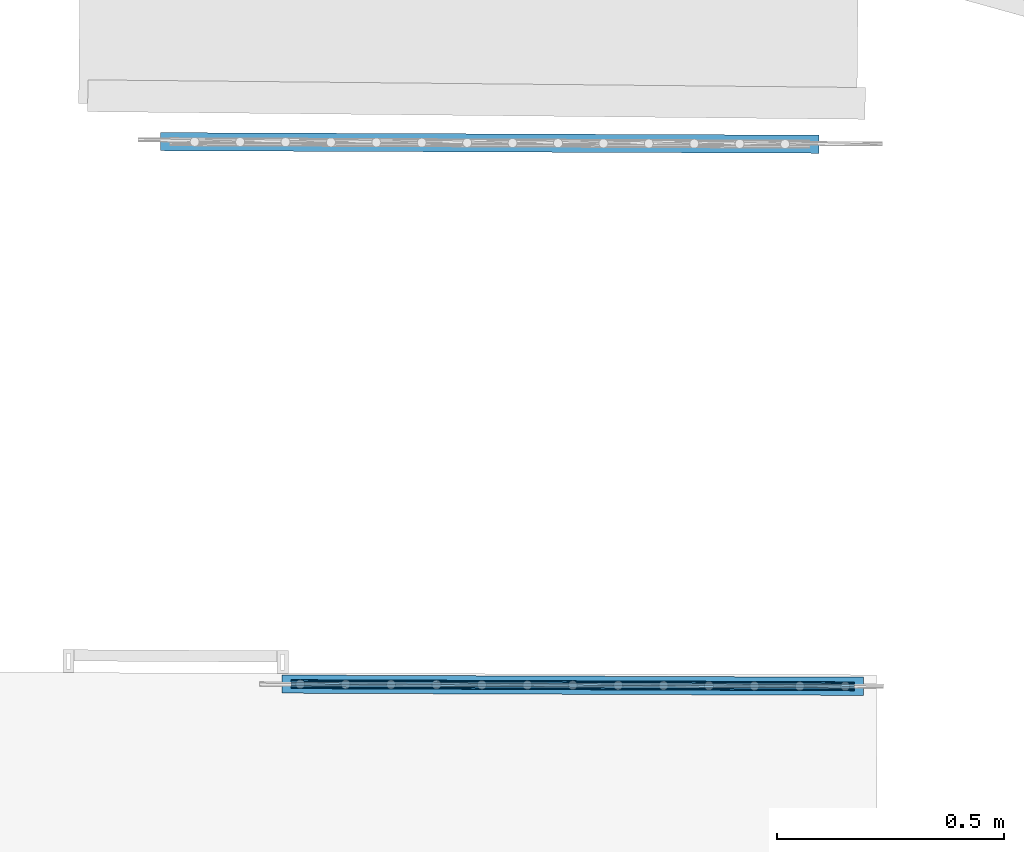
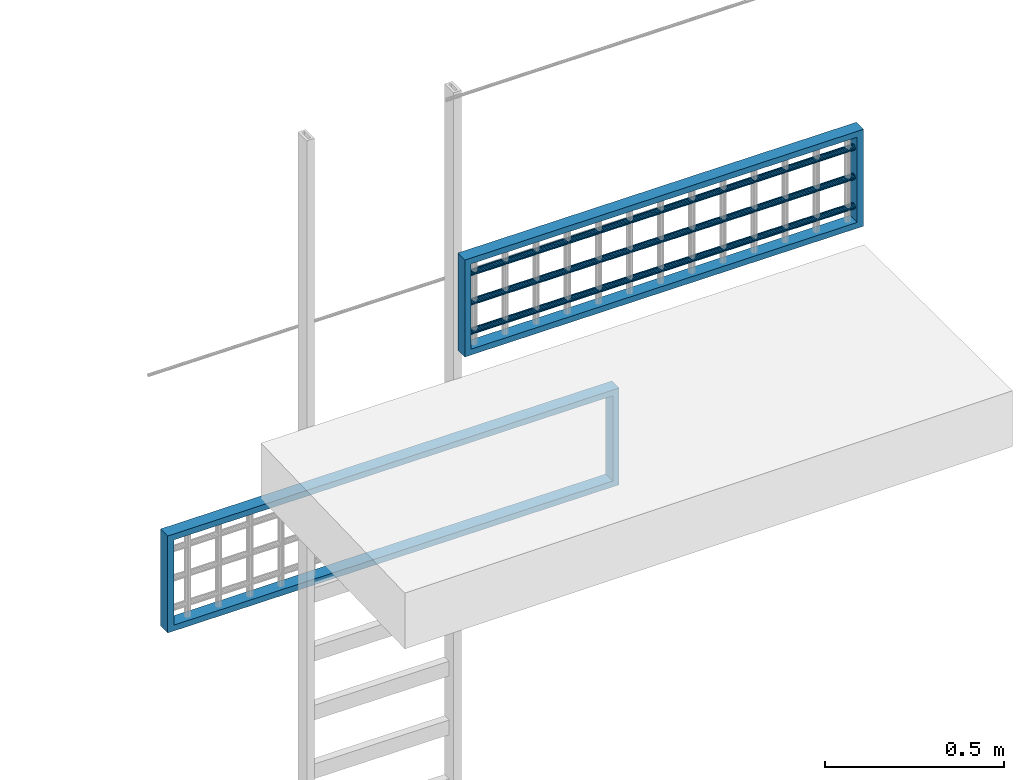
# One storey, part 13 of 39: 5 members, 2 elements without a shape of their own.
"""IFC2X3 building model written with IfcOpenShell, lengths in centimetres."""

from ifc_helpers import new_model, entity, si_unit, converted_unit, direction, frame, origin, origin_with_axes, place, context, subcontext, project, spatial, faceted_brep, material, type_object, element, aggregate, save


model = new_model("IFC2X3")

# Units and contexts
model_context = context("Model", 3, precision=0.0001, world=origin(), true_north=direction((0.225632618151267, 0.974212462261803, 0.0)))
body_context = subcontext(model_context, "Body", "Model", "MODEL_VIEW")
ifc_project = project(units=[si_unit("LENGTHUNIT", "METRE", prefix="CENTI"), si_unit("AREAUNIT", "SQUARE_METRE", prefix="CENTI"), si_unit("VOLUMEUNIT", "CUBIC_METRE", prefix="CENTI"), converted_unit("PLANEANGLEUNIT", "DEGREE", entity("IfcRatioMeasure", 0.0174532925), si_unit("PLANEANGLEUNIT", "RADIAN"), dimensions=[0, 0, 0, 0, 0, 0, 0])], contexts=[model_context])

# Site, building, storey
site_placement = place(None, origin_with_axes())
site = spatial("IfcSite", under=ifc_project, at=site_placement, Name="Default Site", CompositionType="ELEMENT")
building_placement = place(site_placement, origin_with_axes())
building = spatial("IfcBuilding", under=site, at=building_placement, Name="Default Building", CompositionType="ELEMENT")
storey_placement = place(building_placement, frame((0.0, 0.0, 1088.91037418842), z_axis=(0.0, 0.0, 1.0), x_axis=(1.0, 0.0, 0.0)))
storey = spatial("IfcBuildingStorey", under=building, at=storey_placement, Name="Mezzanine", CompositionType="ELEMENT", Elevation=1088.91037418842)

# Assembly, member
building_element_proxy_type = type_object("IfcBuildingElementProxyType", Name="Type Object", PredefinedType="NOTDEFINED")
assembly_1_placement = place(storey_placement, frame((1135.88365779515, -230.612962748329, -220.0), z_axis=(0.0, 0.0, 1.0), x_axis=(0.999992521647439, -0.00386738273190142, 0.0)))
assembly_1 = element("IfcElementAssembly", 1, at=assembly_1_placement, inside=storey, type_object=building_element_proxy_type, Name="Panneau 1519653", ObjectType="Precast panel", PredefinedType="USERDEFINED")
ifc_material = material(Name="Blanc trafic")
member_1_placement = place(assembly_1_placement, frame((1.99999995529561, 1.99999995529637, 31.0000002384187), z_axis=(0.999999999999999, -2.91910592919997e-15, -1.19636099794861e-17), x_axis=(2.91910592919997e-15, 0.999999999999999, 0.0)))
member_1 = element("IfcMember", 2, at=member_1_placement, material=ifc_material, Name="4294967252", context=body_context, shape_type="Brep", body=[
    faceted_brep([(-8.32667268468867e-14, -1.11022302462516e-14, -6.59194920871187e-15), (-3.99999991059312, -1.11022302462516e-14, 5.08447424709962e-15), (-3.99999991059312, -29.0000002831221, 5.08447424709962e-15), (-8.32667268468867e-14, -29.0000002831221, -6.59194920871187e-15), (-3.99999991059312, -1.11022302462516e-14, 5.20417042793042e-15), (-3.99999991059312, 2.00000107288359, -1.99999995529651), (-3.99999991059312, -31.0000002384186, -1.99999995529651), (-3.99999991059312, -29.0000002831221, 5.55111512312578e-15), (-8.91647866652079e-14, 2.00000107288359, -1.99999995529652), (-8.91647866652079e-14, -31.0000002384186, -1.99999995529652), (-8.33265749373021e-14, -1.11022302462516e-14, -6.59194920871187e-15), (-8.33265749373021e-14, -29.0000002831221, -6.24500451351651e-15), (-8.32667268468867e-14, -29.0000002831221, -6.24500451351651e-15), (-3.9999999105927, -29.0000002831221, 140.999994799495), (3.28209681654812e-13, -29.0000002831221, 140.999994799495), (-3.9999999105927, -31.0000002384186, 143.000004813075), (3.34107741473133e-13, -31.0000002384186, 143.000004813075), (3.28267345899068e-13, -29.0000002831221, 140.999994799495), (3.3410558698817e-13, -31.0000002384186, 143.000004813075), (-3.9999999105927, -1.11022302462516e-14, 140.999994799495), (3.28209681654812e-13, -1.11022302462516e-14, 140.999994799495), (-3.9999999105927, 2.00000107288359, 143.000004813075), (3.34107741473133e-13, 2.00000107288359, 143.000004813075), (3.28269500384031e-13, -29.0000002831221, 140.999994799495), (3.28269500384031e-13, -1.11022302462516e-14, 140.999994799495), (-3.99999991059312, -1.27890991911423e-14, 5.20417042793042e-15), (-8.32667268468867e-14, -1.27890991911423e-14, -6.59194920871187e-15), (-8.3324420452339e-14, -1.11022302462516e-14, -6.59194920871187e-15), (-8.91626321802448e-14, 2.00000107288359, -1.99999995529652)], [[[0, 1, 2, 3]], [[4, 5, 6, 7]], [[5, 8, 9, 6]], [[8, 10, 11, 9]], [[12, 7, 13, 14]], [[7, 6, 15, 13]], [[6, 9, 16, 15]], [[9, 11, 17, 18]], [[14, 13, 19, 20]], [[13, 15, 21, 19]], [[15, 16, 22, 21]], [[16, 23, 24, 22]], [[20, 19, 25, 26]], [[19, 21, 5, 4]], [[21, 22, 8, 5]], [[22, 24, 27, 28]]]),
])
aggregate(assembly_1, [member_1])

# Assembly, members
assembly_2_placement = place(storey_placement, frame((1162.63, -350.05, -63.0000000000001), z_axis=(0.0, 0.0, 1.0), x_axis=(0.999992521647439, -0.00386738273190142, 0.0)))
assembly_2 = element("IfcElementAssembly", 3, at=assembly_2_placement, inside=storey, type_object=building_element_proxy_type, Name="Panneau 1519648", ObjectType="Precast panel", PredefinedType="USERDEFINED")
member_2_placement = place(assembly_2_placement, frame((1.9999999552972, 1.99999995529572, 31.0000002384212), z_axis=(0.999999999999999, -2.91910592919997e-15, -1.19636099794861e-17), x_axis=(2.91910592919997e-15, 0.999999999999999, 0.0)))
member_2 = element("IfcMember", 4, at=member_2_placement, material=ifc_material, Name="4294967228", context=body_context, shape_type="Brep", body=[
    faceted_brep([(8.96158147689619e-13, -2.76445533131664e-12, -3.2016056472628e-12), (-3.99999991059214, -2.76445533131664e-12, -3.18978697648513e-12), (-3.99999991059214, -29.0000002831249, -3.18978697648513e-12), (8.96158147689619e-13, -29.0000002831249, -3.2016056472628e-12), (-3.99999991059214, -2.76445533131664e-12, -3.18980952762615e-12), (-3.99999991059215, 2.00000107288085, -1.99999995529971), (-3.99999991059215, -31.0000002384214, -1.99999995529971), (-3.99999991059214, -29.0000002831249, -3.18946258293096e-12), (8.90260087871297e-13, 2.00000107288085, -1.99999995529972), (8.90260087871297e-13, -31.0000002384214, -1.99999995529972), (8.96169423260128e-13, -2.76445533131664e-12, -3.2016056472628e-12), (8.96169423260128e-13, -29.0000002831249, -3.2012587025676e-12), (8.96158147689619e-13, -29.0000002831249, -3.2012587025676e-12), (-3.99999991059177, -29.0000002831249, 123.999999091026), (1.26253174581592e-12, -29.0000002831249, 123.999999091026), (-3.99999991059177, -31.0000002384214, 125.999997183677), (1.26842980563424e-12, -31.0000002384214, 125.999997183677), (1.26254822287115e-12, -29.0000002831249, 123.999999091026), (1.26845755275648e-12, -31.0000002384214, 125.999997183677), (-3.99999991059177, -2.76445533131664e-12, 123.999999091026), (1.26253174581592e-12, -2.76445533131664e-12, 123.999999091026), (-3.99999991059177, 2.00000107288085, 125.999997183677), (1.26842980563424e-12, 2.00000107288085, 125.999997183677), (1.26252047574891e-12, -29.0000002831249, 123.999999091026), (1.26252047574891e-12, -2.76445533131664e-12, 123.999999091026), (-3.99999991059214, -2.76593881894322e-12, -3.18980952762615e-12), (8.96158147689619e-13, -2.76593881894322e-12, -3.2016056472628e-12), (8.96141676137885e-13, -2.76445533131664e-12, -3.2016056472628e-12), (8.90232340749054e-13, 2.00000107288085, -1.99999995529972)], [[[0, 1, 2, 3]], [[4, 5, 6, 7]], [[5, 8, 9, 6]], [[8, 10, 11, 9]], [[12, 7, 13, 14]], [[7, 6, 15, 13]], [[6, 9, 16, 15]], [[9, 11, 17, 18]], [[14, 13, 19, 20]], [[13, 15, 21, 19]], [[15, 16, 22, 21]], [[16, 23, 24, 22]], [[20, 19, 25, 26]], [[19, 21, 5, 4]], [[21, 22, 8, 5]], [[22, 24, 27, 28]]]),
])
member_3_placement = place(assembly_2_placement, frame((125.999999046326, 0.342020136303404, 25.5603075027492), z_axis=(0.999999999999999, 3.39849676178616e-14, 1.96008573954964e-14), x_axis=(3.92325061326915e-14, -0.866024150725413, -0.500002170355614)))
member_3 = element("IfcMember", 5, at=member_3_placement, material=ifc_material, Name="4294967227", context=body_context, shape_type="Brep", body=[
    faceted_brep([(5.57887069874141e-13, 2.90323320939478e-12, -3.37507799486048e-12), (-0.347296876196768, 2.90600876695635e-12, -3.361463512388e-12), (-0.673647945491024, -0.118779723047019, -3.34867015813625e-12), (-0.939693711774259, -0.34201812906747, -3.33824087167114e-12), (-1.11334216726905, -0.642784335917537, -3.33143369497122e-12), (-1.17365112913, -0.98480562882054, -3.3290695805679e-12), (-1.11334356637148, -1.32682410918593, -3.33143378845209e-12), (-0.93969663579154, -1.62759289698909, -3.3382410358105e-12), (-0.673653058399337, -1.85083187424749, -3.34867033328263e-12), (-0.347301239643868, -1.96961451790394, -3.36146376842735e-12), (-4.36344654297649e-06, -1.96961451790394, -3.37507825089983e-12), (0.326346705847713, -1.85083479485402, -3.38787160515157e-12), (0.592392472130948, -1.62759638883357, -3.39830089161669e-12), (0.766040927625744, -1.3268301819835, -3.4051080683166e-12), (0.826349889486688, -0.984808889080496, -3.40747218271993e-12), (0.766042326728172, -0.642790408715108, -3.40510797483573e-12), (0.592395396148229, -0.342021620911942, -3.39830072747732e-12), (0.326351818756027, -0.118782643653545, -3.38787143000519e-12), (0.326351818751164, -0.118782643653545, -123.999999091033), (0.592395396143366, -0.342021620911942, -123.999999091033), (0.76604232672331, -0.642790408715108, -123.999999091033), (0.826349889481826, -0.984808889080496, -123.999999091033), (0.766040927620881, -1.3268301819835, -123.999999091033), (0.592392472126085, -1.62759638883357, -123.999999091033), (0.32634670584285, -1.85083479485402, -123.999999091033), (-4.36345140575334e-06, -1.96961451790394, -123.999999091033), (-0.347301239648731, -1.96961451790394, -123.999999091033), (-0.6736530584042, -1.85083187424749, -123.999999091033), (-0.939696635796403, -1.62759289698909, -123.999999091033), (-1.11334356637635, -1.32682410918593, -123.999999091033), (-1.17365112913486, -0.98480562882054, -123.999999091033), (-1.11334216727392, -0.642784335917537, -123.999999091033), (-0.939693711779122, -0.34201812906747, -123.999999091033), (-0.673647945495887, -0.118779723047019, -123.999999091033), (-0.34729687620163, 2.90600876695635e-12, -123.999999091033), (-4.30488977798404e-12, 2.90323320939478e-12, -123.999999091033), (0.326351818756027, -0.118782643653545, -3.39728245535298e-12), (0.592395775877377, -0.342021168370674, -3.41948693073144e-12), (0.592395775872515, -0.342021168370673, -123.999999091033), (0.326351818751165, -0.118782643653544, -123.999999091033), (0.592395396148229, -0.342021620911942, -3.41948691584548e-12), (0.76604307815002, -0.64278997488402, -3.41948694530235e-12), (0.766043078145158, -0.64278997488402, -123.999999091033), (0.592395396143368, -0.342021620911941, -123.999999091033), (0.766042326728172, -0.642790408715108, -3.41948691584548e-12), (0.826348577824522, -0.984809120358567, -3.41948686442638e-12), (0.826348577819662, -0.984809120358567, -123.999999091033), (0.766042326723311, -0.642790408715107, -123.999999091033), (0.826349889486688, -0.984808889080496, -3.41948691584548e-12), (0.766041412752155, -1.32683026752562, -3.44169139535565e-12), (0.766041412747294, -1.32683026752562, -123.999999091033), (0.826349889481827, -0.984808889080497, -123.999999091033), (0.766040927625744, -1.3268301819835, -3.44169137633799e-12), (0.592392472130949, -1.62759638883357, -3.41948691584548e-12), (0.592392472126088, -1.62759638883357, -123.999999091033), (0.766040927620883, -1.3268301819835, -123.999999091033), (0.592392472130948, -1.62759638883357, -3.41948691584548e-12), (0.326346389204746, -1.85083441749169, -3.39728244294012e-12), (0.326346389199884, -1.85083441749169, -123.999999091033), (0.592392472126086, -1.62759638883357, -123.999999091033), (0.326346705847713, -1.85083479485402, -3.39728245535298e-12), (-3.90791441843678e-06, -1.96961576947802, -3.39728247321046e-12), (-3.90791928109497e-06, -1.96961576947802, -123.999999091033), (0.326346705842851, -1.85083479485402, -123.999999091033), (-4.36344654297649e-06, -1.96961451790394, -3.39728245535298e-12), (-0.347301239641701, -1.96961365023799, -3.3972824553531e-12), (-0.347301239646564, -1.96961365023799, -123.999999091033), (-0.347301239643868, -1.96961451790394, -3.39728245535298e-12), (-0.673652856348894, -1.85083131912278, -3.37507800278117e-12), (-0.673652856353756, -1.85083131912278, -123.999999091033), (-0.673653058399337, -1.85083187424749, -3.37507799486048e-12), (-0.939697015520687, -1.62759334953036, -3.35287351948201e-12), (-0.93969701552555, -1.62759334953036, -123.999999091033), (-0.673653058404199, -1.85083187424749, -123.999999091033), (-0.93969663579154, -1.62759289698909, -3.35287353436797e-12), (-1.11334431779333, -1.32682454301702, -3.35287350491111e-12), (-1.11334431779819, -1.32682454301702, -123.999999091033), (-0.939696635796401, -1.62759289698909, -123.999999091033), (-1.11334356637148, -1.32682410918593, -3.35287353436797e-12), (-1.17364981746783, -0.984805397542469, -3.35287358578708e-12), (-1.17364981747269, -0.984805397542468, -123.999999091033), (-1.11334356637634, -1.32682410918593, -123.999999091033), (-1.17365112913, -0.98480562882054, -3.35287353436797e-12), (-1.11334265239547, -0.642784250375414, -3.3306690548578e-12), (-1.11334265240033, -0.642784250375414, -123.999999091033), (-1.11334216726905, -0.642784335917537, -3.33066907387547e-12), (-0.93969371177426, -0.34201812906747, -3.35287353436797e-12), (-0.939693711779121, -0.34201812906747, -123.999999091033), (-1.11334216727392, -0.642784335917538, -123.999999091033), (-0.939693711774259, -0.34201812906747, -3.35287353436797e-12), (-0.673647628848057, -0.118780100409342, -3.37507800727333e-12), (-0.673647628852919, -0.118780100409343, -123.999999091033), (-0.939693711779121, -0.342018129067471, -123.999999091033), (-0.673647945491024, -0.118779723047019, -3.37507799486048e-12), (-0.347297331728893, 1.25157698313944e-06, -3.37507797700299e-12), (-0.347297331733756, 1.2515769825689e-06, -123.999999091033), (-0.673647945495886, -0.118779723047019, -123.999999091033), (-0.347296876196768, 2.90600876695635e-12, -3.37507799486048e-12), (-1.60983817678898e-12, -8.67663048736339e-07, -3.37507799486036e-12), (-6.47261502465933e-12, -8.67663048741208e-07, -123.999999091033), (-0.34729687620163, 2.90600389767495e-12, -123.999999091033), (0.326351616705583, -0.118783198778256, -3.39728244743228e-12), (0.32635161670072, -0.118783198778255, -123.999999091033), (-4.30468150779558e-12, 2.90380542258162e-12, -123.999999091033)], [[[0, 1, 2, 3, 4, 5, 6, 7, 8, 9, 10, 11, 12, 13, 14, 15, 16, 17]], [[18, 19, 20, 21, 22, 23, 24, 25, 26, 27, 28, 29, 30, 31, 32, 33, 34, 35]], [[36, 37, 38, 39]], [[40, 41, 42, 43]], [[44, 45, 46, 47]], [[48, 49, 50, 51]], [[52, 53, 54, 55]], [[56, 57, 58, 59]], [[60, 61, 62, 63]], [[64, 65, 66, 25]], [[67, 68, 69, 26]], [[70, 71, 72, 73]], [[74, 75, 76, 77]], [[78, 79, 80, 81]], [[82, 83, 84, 30]], [[85, 86, 87, 88]], [[89, 90, 91, 92]], [[93, 94, 95, 96]], [[97, 98, 99, 100]], [[0, 101, 102, 103]]]),
])
member_4_placement = place(assembly_2_placement, frame((125.999999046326, 0.342020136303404, 15.5603080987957), z_axis=(0.999999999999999, 3.39845339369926e-14, 1.96006405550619e-14), x_axis=(3.92320724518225e-14, -0.86602600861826, -0.499998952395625)))
member_4 = element("IfcMember", 6, at=member_4_placement, material=ifc_material, Name="4294967226", context=body_context, shape_type="Brep", body=[
    faceted_brep([(5.8564264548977e-13, 2.78110867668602e-12, -3.574918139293e-12), (-0.347296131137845, 2.78388423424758e-12, -3.5613035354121e-12), (-0.673647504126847, -0.118782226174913, -3.54851000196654e-12), (-0.939691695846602, -0.342020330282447, -3.53808061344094e-12), (-1.11333977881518, -0.642788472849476, -3.5312733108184e-12), (-1.17364672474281, -0.98480869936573, -3.52890917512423e-12), (-1.11333863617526, -1.32682824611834, -3.53127335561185e-12), (-0.939690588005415, -1.62759638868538, -3.53808065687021e-12), (-0.673645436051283, -1.85083308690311, -3.54851008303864e-12), (-0.347293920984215, -1.96961580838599, -3.56130362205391e-12), (2.95521071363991e-06, -1.96961451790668, -3.57491825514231e-12), (0.326354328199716, -1.85083229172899, -3.58771178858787e-12), (0.592398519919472, -1.62759418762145, -3.59814117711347e-12), (0.766046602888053, -1.32682604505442, -3.60494847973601e-12), (0.826353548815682, -0.98480581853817, -3.60731261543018e-12), (0.766045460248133, -0.642786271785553, -3.60494843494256e-12), (0.592396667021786, -0.342019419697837, -3.5981411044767e-12), (0.326352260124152, -0.118781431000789, -3.58771170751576e-12), (0.326352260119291, -0.118781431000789, -123.999999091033), (0.592396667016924, -0.342019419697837, -123.999999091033), (0.766045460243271, -0.642786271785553, -123.999999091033), (0.826353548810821, -0.98480581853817, -123.999999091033), (0.766046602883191, -1.32682604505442, -123.999999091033), (0.592398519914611, -1.62759418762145, -123.999999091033), (0.326354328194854, -1.85083229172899, -123.999999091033), (2.95520585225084e-06, -1.96961451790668, -123.999999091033), (-0.347293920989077, -1.96961580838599, -123.999999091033), (-0.673645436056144, -1.85083308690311, -123.999999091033), (-0.939690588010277, -1.62759638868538, -123.999999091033), (-1.11333863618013, -1.32682824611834, -123.999999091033), (-1.17364672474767, -0.98480869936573, -123.999999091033), (-1.11333977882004, -0.642788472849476, -123.999999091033), (-0.939691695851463, -0.342020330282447, -123.999999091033), (-0.673647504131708, -0.118782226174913, -123.999999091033), (-0.347296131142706, 2.78388423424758e-12, -123.999999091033), (-4.27574642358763e-12, 2.78110867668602e-12, -123.999999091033), (0.326352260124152, -0.118781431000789, -3.59712259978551e-12), (0.592397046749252, -0.342018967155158, -3.6193270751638e-12), (0.59239704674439, -0.342018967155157, -123.999999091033), (0.592396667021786, -0.342019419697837, -3.61932706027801e-12), (0.766045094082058, -0.642786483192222, -3.61932704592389e-12), (0.766045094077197, -0.642786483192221, -123.999999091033), (0.592396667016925, -0.342019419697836, -123.999999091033), (0.766045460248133, -0.642786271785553, -3.61932706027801e-12), (0.826353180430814, -0.98480588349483, -3.61932704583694e-12), (0.826353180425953, -0.98480588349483, -123.999999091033), (0.766045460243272, -0.642786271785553, -123.999999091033), (0.826353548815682, -0.98480581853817, -3.61932706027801e-12), (0.766046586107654, -1.32682604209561, -3.64153152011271e-12), (0.766046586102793, -1.32682604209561, -123.999999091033), (0.826353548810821, -0.984805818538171, -123.999999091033), (0.766046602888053, -1.32682604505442, -3.64153152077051e-12), (0.592398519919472, -1.62759418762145, -3.61932706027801e-12), (0.766046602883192, -1.32682604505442, -123.999999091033), (0.326354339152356, -1.8508323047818, -3.59712260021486e-12), (0.326354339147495, -1.8508323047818, -123.999999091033), (0.326354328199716, -1.85083229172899, -3.59712259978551e-12), (3.08314988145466e-06, -1.96961486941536, -3.59712260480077e-12), (3.08314502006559e-06, -1.96961486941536, -123.999999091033), (2.95521071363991e-06, -1.96961451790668, -3.59712259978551e-12), (-0.347293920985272, -1.96961494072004, -3.59712259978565e-12), (-0.347293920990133, -1.96961494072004, -123.999999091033), (-0.347293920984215, -1.96961580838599, -3.59712259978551e-12), (-0.673645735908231, -1.85083391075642, -3.57491812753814e-12), (-0.673645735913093, -1.85083391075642, -123.999999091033), (-0.347293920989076, -1.96961580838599, -123.999999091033), (-0.673645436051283, -1.85083308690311, -3.574918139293e-12), (-0.93969002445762, -1.62759571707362, -3.55271370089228e-12), (-0.939690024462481, -1.62759571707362, -123.999999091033), (-0.673645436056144, -1.85083308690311, -123.999999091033), (-0.939690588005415, -1.62759638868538, -3.5527136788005e-12), (-1.1133393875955, -1.32682867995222, -3.55271364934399e-12), (-1.11333938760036, -1.32682867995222, -123.999999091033), (-0.939690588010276, -1.62759638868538, -123.999999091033), (-1.11333863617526, -1.32682824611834, -3.5527136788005e-12), (-1.17364635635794, -0.98480863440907, -3.55271369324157e-12), (-1.17364635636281, -0.98480863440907, -123.999999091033), (-1.11333863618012, -1.32682824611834, -123.999999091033), (-1.17364672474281, -0.98480869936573, -3.5527136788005e-12), (-1.11333976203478, -0.642788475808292, -3.53050921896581e-12), (-1.11333976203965, -0.642788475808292, -123.999999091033), (-1.11333977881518, -0.642788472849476, -3.530509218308e-12), (-0.939691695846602, -0.342020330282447, -3.5527136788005e-12), (-0.673647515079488, -0.118782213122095, -3.57491813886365e-12), (-0.673647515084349, -0.118782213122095, -123.999999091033), (-0.673647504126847, -0.118782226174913, -3.574918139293e-12), (-0.347296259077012, 3.51511458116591e-07, -3.57491813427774e-12), (-0.347296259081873, 3.51511457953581e-07, -123.999999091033), (-0.347296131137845, 2.78388423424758e-12, -3.574918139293e-12), (7.08935425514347e-14, 4.22815237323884e-07, -3.57491813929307e-12), (-4.79049552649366e-12, 4.22815237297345e-07, -123.999999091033), (-0.347296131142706, 2.7838576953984e-12, -123.999999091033), (0.326352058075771, -0.11878198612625, -3.59712259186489e-12), (0.32635205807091, -0.11878198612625, -123.999999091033), (-4.2757004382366e-12, 2.7812350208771e-12, -123.999999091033)], [[[0, 1, 2, 3, 4, 5, 6, 7, 8, 9, 10, 11, 12, 13, 14, 15, 16, 17]], [[18, 19, 20, 21, 22, 23, 24, 25, 26, 27, 28, 29, 30, 31, 32, 33, 34, 35]], [[36, 37, 38, 18]], [[39, 40, 41, 42]], [[43, 44, 45, 46]], [[47, 48, 49, 50]], [[51, 52, 23, 53]], [[52, 54, 55, 23]], [[56, 57, 58, 24]], [[59, 60, 61, 25]], [[62, 63, 64, 65]], [[66, 67, 68, 69]], [[70, 71, 72, 73]], [[74, 75, 76, 77]], [[78, 79, 80, 30]], [[81, 82, 32, 31]], [[82, 83, 84, 32]], [[85, 86, 87, 33]], [[88, 89, 90, 91]], [[0, 92, 93, 94]]]),
])
member_5_placement = place(assembly_2_placement, frame((125.999999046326, 0.342020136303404, 5.56030720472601), z_axis=(0.999999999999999, 3.39849676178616e-14, 1.96008573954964e-14), x_axis=(3.92325061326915e-14, -0.866025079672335, -0.500000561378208)))
member_5 = element("IfcMember", 7, at=member_5_placement, material=ifc_material, Name="4294967225", context=body_context, shape_type="Brep", body=[
    faceted_brep([(5.91540705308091e-13, 2.78041478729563e-12, -3.574918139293e-12), (-0.347296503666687, 2.78388423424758e-12, -3.56130352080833e-12), (-0.673648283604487, -0.118781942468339, -3.54850997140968e-12), (-0.939693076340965, -0.342019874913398, -3.53808055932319e-12), (-1.11334134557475, -0.642787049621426, -3.53127324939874e-12), (-1.17364892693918, -0.984807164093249, -3.52890908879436e-12), (-1.11334184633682, -1.3268274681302, -3.53127322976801e-12), (-0.939693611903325, -1.62759464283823, -3.53808053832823e-12), (-0.673649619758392, -1.85083312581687, -3.54850991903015e-12), (-0.347297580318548, -1.96961516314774, -3.56130347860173e-12), (-1.44918071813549e-06, -1.96961580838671, -3.57491808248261e-12), (0.326350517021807, -1.8508335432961, -3.58771163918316e-12), (0.59239512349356, -1.62759593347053, -3.59814104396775e-12), (0.766043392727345, -1.3268287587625, -3.6049483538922e-12), (0.826351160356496, -0.984808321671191, -3.60731252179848e-12), (0.766043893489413, -0.642788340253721, -3.60494837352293e-12), (0.592396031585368, -0.342020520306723, -3.59814107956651e-12), (0.326351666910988, -0.118782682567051, -3.58771168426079e-12), (0.326351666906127, -0.118782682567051, -123.999999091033), (0.592396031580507, -0.342020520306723, -123.999999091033), (0.766043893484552, -0.642788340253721, -123.999999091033), (0.826351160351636, -0.984808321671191, -123.999999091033), (0.766043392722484, -1.3268287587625, -123.999999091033), (0.592395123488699, -1.62759593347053, -123.999999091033), (0.326350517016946, -1.8508335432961, -123.999999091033), (-1.44918557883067e-06, -1.96961580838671, -123.999999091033), (-0.347297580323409, -1.96961516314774, -123.999999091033), (-0.673649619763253, -1.85083312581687, -123.999999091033), (-0.939693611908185, -1.62759464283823, -123.999999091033), (-1.11334184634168, -1.3268274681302, -123.999999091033), (-1.17364892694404, -0.984807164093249, -123.999999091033), (-1.11334134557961, -0.642787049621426, -123.999999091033), (-0.939693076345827, -0.342019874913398, -123.999999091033), (-0.673648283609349, -0.118781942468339, -123.999999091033), (-0.347296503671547, 2.78388423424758e-12, -123.999999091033), (-4.26950141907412e-12, 2.78041478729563e-12, -123.999999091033), (0.326351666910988, -0.118782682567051, -3.59712259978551e-12), (0.592395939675, -0.342020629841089, -3.61932705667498e-12), (0.592395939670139, -0.342020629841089, -123.999999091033), (0.592396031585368, -0.342020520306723, -3.61932706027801e-12), (0.766044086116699, -0.642788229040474, -3.6193270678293e-12), (0.766044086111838, -0.642788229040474, -123.999999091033), (0.766043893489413, -0.642788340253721, -3.61932706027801e-12), (0.826351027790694, -0.984808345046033, -3.61932705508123e-12), (0.826351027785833, -0.984808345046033, -123.999999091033), (0.826351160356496, -0.984808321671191, -3.61932706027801e-12), (0.766043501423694, -1.32682877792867, -3.61932706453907e-12), (0.766043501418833, -1.32682877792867, -123.999999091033), (0.826351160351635, -0.984808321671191, -123.999999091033), (0.766043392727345, -1.3268287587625, -3.61932706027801e-12), (0.592395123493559, -1.62759593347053, -3.61932706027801e-12), (0.326350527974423, -1.85083355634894, -3.59712260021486e-12), (0.326350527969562, -1.85083355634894, -123.999999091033), (0.326350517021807, -1.8508335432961, -3.59712259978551e-12), (-1.48504017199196e-06, -1.96961570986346, -3.59712259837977e-12), (-1.48504503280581e-06, -1.96961570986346, -123.999999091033), (-1.44918071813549e-06, -1.96961580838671, -3.59712259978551e-12), (-0.347297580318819, -1.96961558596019, -3.57491813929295e-12), (-0.34729758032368, -1.96961558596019, -123.999999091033), (-0.347297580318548, -1.96961516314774, -3.574918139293e-12), (-0.673649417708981, -1.85083257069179, -3.5527136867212e-12), (-0.673649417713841, -1.85083257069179, -123.999999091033), (-0.673649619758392, -1.85083312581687, -3.5527136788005e-12), (-0.939693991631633, -1.62759509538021, -3.53050920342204e-12), (-0.939693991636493, -1.62759509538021, -123.999999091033), (-0.939693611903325, -1.62759464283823, -3.530509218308e-12), (-1.11334148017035, -1.32682725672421, -3.55271369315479e-12), (-1.11334148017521, -1.32682725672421, -123.999999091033), (-0.939693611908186, -1.62759464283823, -123.999999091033), (-1.11334184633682, -1.3268274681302, -3.5527136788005e-12), (-1.17364903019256, -0.98480718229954, -3.55271367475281e-12), (-1.17364903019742, -0.98480718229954, -123.999999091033), (-1.17364892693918, -0.984807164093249, -3.5527136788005e-12), (-1.11334132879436, -0.642787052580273, -3.53050921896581e-12), (-1.11334132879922, -0.642787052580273, -123.999999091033), (-1.11334134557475, -0.642787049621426, -3.530509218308e-12), (-0.939693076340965, -0.342019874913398, -3.530509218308e-12), (-0.939693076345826, -0.342019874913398, -123.999999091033), (-0.673648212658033, -0.118782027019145, -3.5749181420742e-12), (-0.673648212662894, -0.118782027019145, -123.999999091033), (-0.673648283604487, -0.118781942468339, -3.574918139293e-12), (-0.347296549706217, 1.26495617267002e-07, -3.5749181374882e-12), (-0.347296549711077, 1.26495617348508e-07, -123.999999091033), (-0.347296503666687, 2.78388423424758e-12, -3.574918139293e-12), (4.49087043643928e-13, -2.22423966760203e-07, -3.57491813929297e-12), (-4.41195508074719e-12, -2.22423966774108e-07, -123.999999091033), (-0.347296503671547, 2.78387032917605e-12, -123.999999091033), (0.326351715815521, -0.118782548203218, -3.59712260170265e-12), (0.32635171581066, -0.118782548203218, -123.999999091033), (-4.2694989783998e-12, 2.78042149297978e-12, -123.999999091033)], [[[0, 1, 2, 3, 4, 5, 6, 7, 8, 9, 10, 11, 12, 13, 14, 15, 16, 17]], [[18, 19, 20, 21, 22, 23, 24, 25, 26, 27, 28, 29, 30, 31, 32, 33, 34, 35]], [[36, 37, 38, 18]], [[39, 40, 41, 19]], [[42, 43, 44, 20]], [[45, 46, 47, 48]], [[49, 50, 23, 22]], [[50, 51, 52, 23]], [[53, 54, 55, 24]], [[56, 57, 58, 25]], [[59, 60, 61, 26]], [[62, 63, 64, 27]], [[65, 66, 67, 68]], [[69, 70, 71, 29]], [[72, 73, 74, 30]], [[75, 76, 77, 31]], [[76, 78, 79, 77]], [[80, 81, 82, 33]], [[83, 84, 85, 86]], [[0, 87, 88, 89]]]),
])
aggregate(assembly_2, [member_2, member_3, member_4, member_5])

save(model, "model.ifc")
